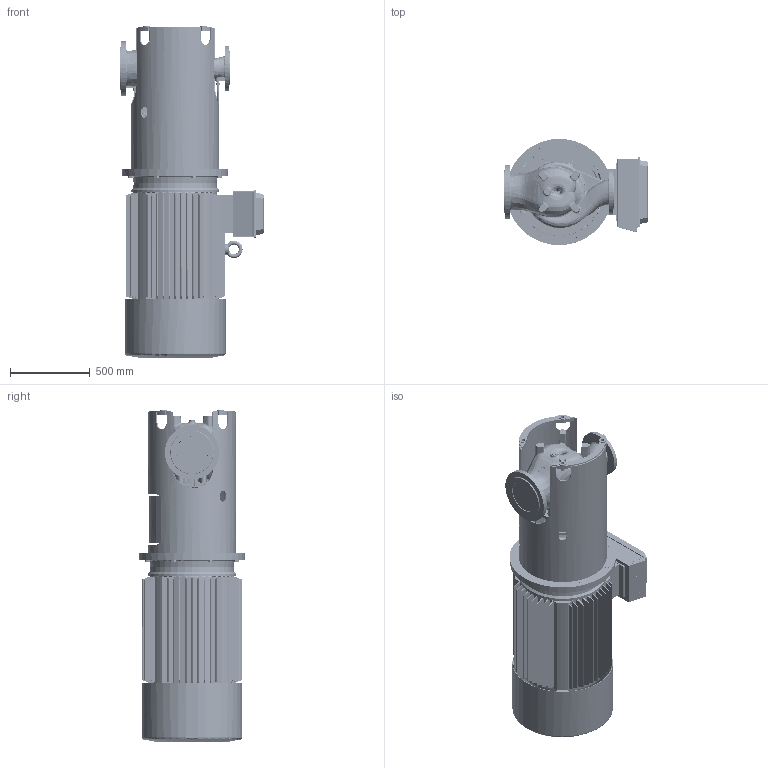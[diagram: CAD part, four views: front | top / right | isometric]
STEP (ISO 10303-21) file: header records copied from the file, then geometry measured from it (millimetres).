
FILE_DESCRIPTION((''),'2;1');
FILE_NAME('DSL150-265_A_G_ASM','2019-04-23T',('brhe'),(''),'PRO/ENGINEER BY PARAMETRIC TECHNOLOGY CORPORATION, 2017170','PRO/ENGINEER BY PARAMETRIC TECHNOLOGY CORPORATION, 2017170','');
FILE_SCHEMA(('CONFIG_CONTROL_DESIGN'));
Products named in the file (41): 527792; 114575; 114677; 527502; 114678; 700226; 704067; 704063; 702275; 527642; 708438; 760107; 708206; 506953; 655477_ASM; 655478_ASM; 719718; 719719; 655475_ASM; 114650_AF3; 110143_AF1; 110140_AF4; 110139_AF0; 110139_AF1; 110138_AF0; 110138_AF1; 110138_AF2; 110138_AF3; 527550_AF2_ASM; 527560_ASM; 114651-1_AF0; 760288; 114651_AF2_ASM; 707014; 706719; 708070; 655476_ASM; 842660; 704390; 704391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
Assembly tree (61 placements, depth 5):
  DSL150-265_A_G_ASM
    655478_ASM
      655477_ASM
        527792
        114575  x2
        114677
        527502
        114678
        700226
        704067
        704063
        702275  x2
        527642
        708438  x2
        760107  x2
        708206
        506953
    655475_ASM
      719718
      719719
    655476_ASM
      527560_ASM
        527550_AF2_ASM
          114650_AF3
          110143_AF1
          110140_AF4
          110139_AF0
          110139_AF1
          110138_AF0
          110138_AF1
          110138_AF2
          110138_AF3
      114651_AF2_ASM
        114651-1_AF0
        760288  x4
      707014  x4
      706719  x4
      708070  x8
    842660
    704390  x2
    704391
Bounding box: 900 x 665 x 2075 mm (x, y, z)
Volume: 309393513.4 mm3; surface area: 22557691.9 mm2
Topology: 54 solids, 168 shells, 6699 faces, 17001 edges, 10598 vertices
Faces by surface type: bspline 2391, plane 1588, cylinder 1480, cone 543, extrusion 350, torus 251, sphere 92, revolution 4
Entity records: 629239 total; most frequent: CARTESIAN_POINT 496027, ORIENTED_EDGE 31262, DIRECTION 20996, EDGE_CURVE 16009, VERTEX_POINT 10052, AXIS2_PLACEMENT_3D 8224, B_SPLINE_CURVE_WITH_KNOTS 7662, EDGE_LOOP 6841
